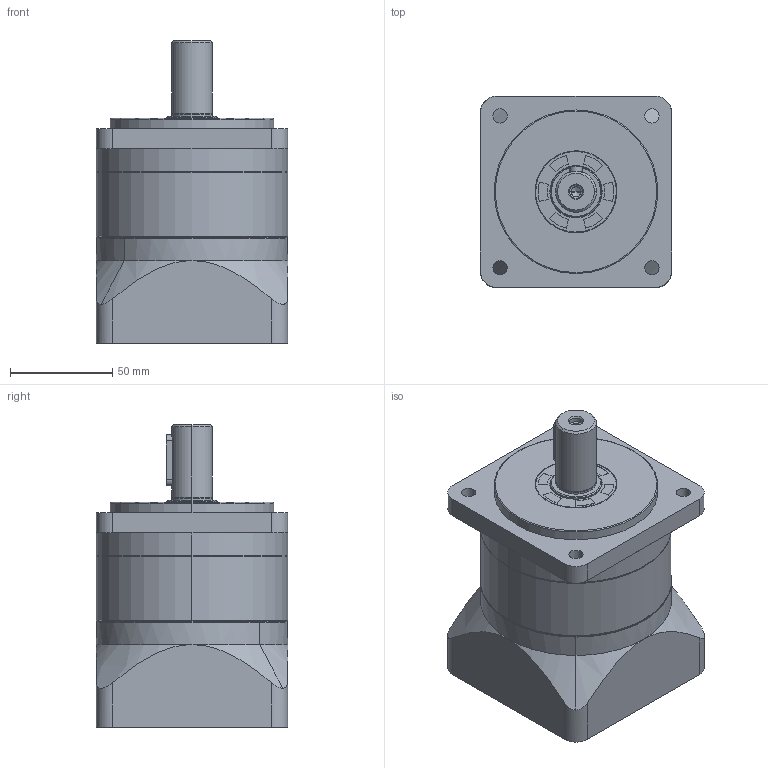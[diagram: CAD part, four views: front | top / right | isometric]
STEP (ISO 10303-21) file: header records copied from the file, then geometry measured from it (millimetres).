
FILE_DESCRIPTION (( 'STEP AP203' ), '1' );
FILE_NAME ('SB93-L1(12.7-73-98.7-M5).STEP', '2022-03-11T16:45:19', ( '' ), ( '' ), 'SwSTEP 2.0', 'SolidWorks 2016', '' );
FILE_SCHEMA (( 'CONFIG_CONTROL_DESIGN' ));
Length unit declared in the file: millimetre
Products named in the file (10): SB93-(80x5-105-7); SN90-25x40x5; SN90-48x27x15-M6; SN93; SN93-(20x37-6x25); DP93; 90-(o19-12.7x26); SN93-(73-98.7-M5); SB93-L1(12.7-73-98.7-M5); SN90-(19)
Assembly tree (9 placements, depth 2):
  SB93-L1(12.7-73-98.7-M5)
    SB93-(80x5-105-7)
    SN90-25x40x5
    SN93-(20x37-6x25)
    SN93
    DP93
    SN93-(73-98.7-M5)
    SN90-(19)
    SN90-48x27x15-M6
    90-(o19-12.7x26)
Bounding box: 93.5 x 93.5 x 148.1 mm (x, y, z)
Volume: 757409.5 mm3; surface area: 138495.9 mm2
Topology: 11 solids, 11 shells, 443 faces, 1124 edges, 714 vertices
Faces by surface type: cylinder 228, plane 122, cone 55, bspline 32, torus 6
Entity records: 30490 total; most frequent: CARTESIAN_POINT 19221, ORIENTED_EDGE 2212, DIRECTION 2079, EDGE_CURVE 1106, AXIS2_PLACEMENT_3D 813, VERTEX_POINT 714, EDGE_LOOP 518, VECTOR 453
